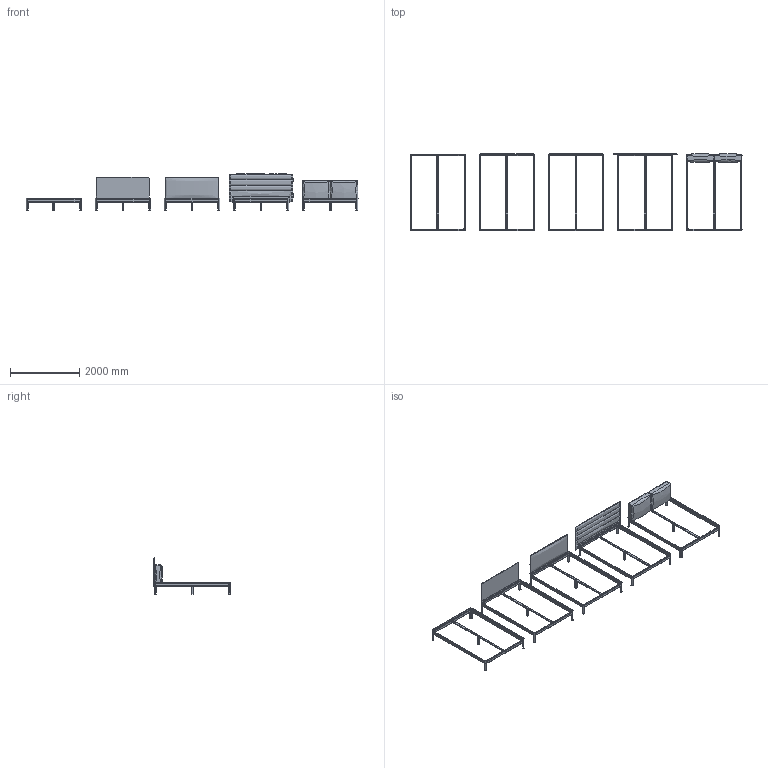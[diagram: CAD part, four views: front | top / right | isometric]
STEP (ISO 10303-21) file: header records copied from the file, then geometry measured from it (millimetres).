
FILE_DESCRIPTION(/* description */ (''),/* implementation_level */ '2;1');
FILE_NAME(/* name */ 'Heia_160x220',/* time_stamp */ '2025-10-15T11:15:40+02:00',/* author */ (''),/* organization */ (''),/* preprocessor_version */ 'ST-DEVELOPER v16.5',/* originating_system */ 'Rhino 7.38',/* authorisation */ '');
FILE_SCHEMA (('CONFIG_CONTROL_DESIGN'));
Length unit declared in the file: millimetre
Products named in the file (1): Document
Bounding box: 9611 x 2233.49 x 1051.22 mm (x, y, z)
Volume: 387991166.3 mm3; surface area: 26391934.2 mm2
Topology: 79 solids, 80 shells, 2148 faces, 5232 edges, 3222 vertices
Faces by surface type: plane 888, cylinder 836, bspline 424
Entity records: 72773 total; most frequent: CARTESIAN_POINT 39615, ORIENTED_EDGE 10422, EDGE_CURVE 5216, VERTEX_POINT 3222, B_SPLINE_CURVE_WITH_KNOTS 2265, EDGE_LOOP 2198, ADVANCED_FACE 2148, FACE_OUTER_BOUND 2148
